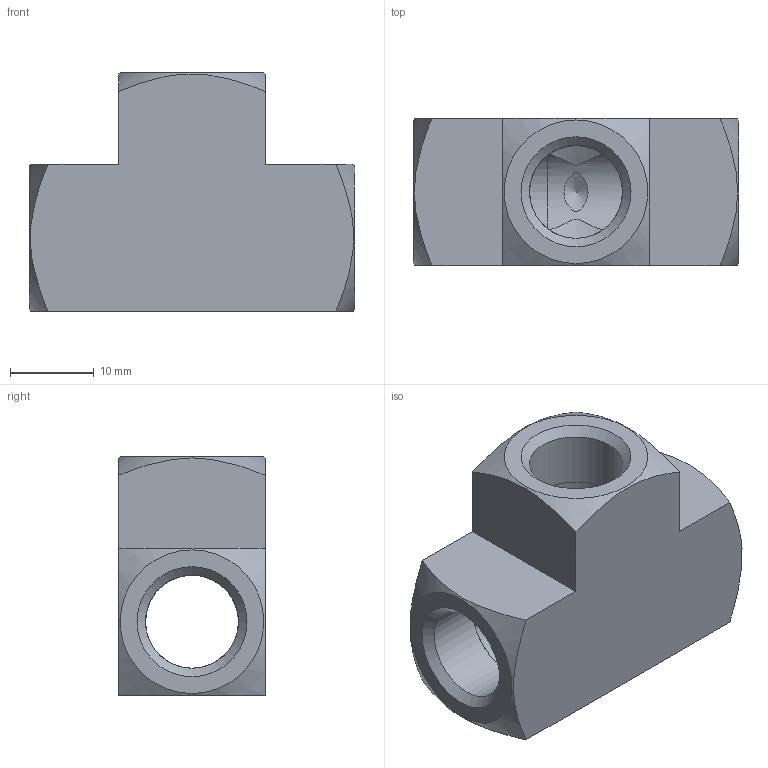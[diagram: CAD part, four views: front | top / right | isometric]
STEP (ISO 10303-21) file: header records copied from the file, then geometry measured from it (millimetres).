
FILE_DESCRIPTION(/* description */ (''),/* implementation_level */ '2;1');
FILE_NAME(/* name */ 'C:/Users/drich/Desktop/T-14 v1.step',/* time_stamp */ '2020-02-09T11:07:44-06:00',/* author */ (''),/* organization */ (''),/* preprocessor_version */ 'ST-DEVELOPER v18',/* originating_system */ 'Autodesk Translation Framework v8.12.0.6',/* authorisation */ '');
FILE_SCHEMA (('AUTOMOTIVE_DESIGN { 1 0 10303 214 3 1 1 }'));
Length unit declared in the file: inch
Products named in the file (1): T-14
Bounding box: 38.86 x 17.53 x 28.45 mm (x, y, z)
Volume: 9858.9 mm3; surface area: 5415.7 mm2
Topology: 1 solids, 1 shells, 35 faces, 93 edges, 62 vertices
Faces by surface type: cylinder 13, plane 13, cone 9
Full cylindrical faces by diameter (mm): 11.1 x3, 11.125 x3
Entity records: 1225 total; most frequent: CARTESIAN_POINT 313, DIRECTION 188, ORIENTED_EDGE 184, EDGE_CURVE 92, AXIS2_PLACEMENT_3D 79, VERTEX_POINT 62, EDGE_LOOP 42, FACE_OUTER_BOUND 35
